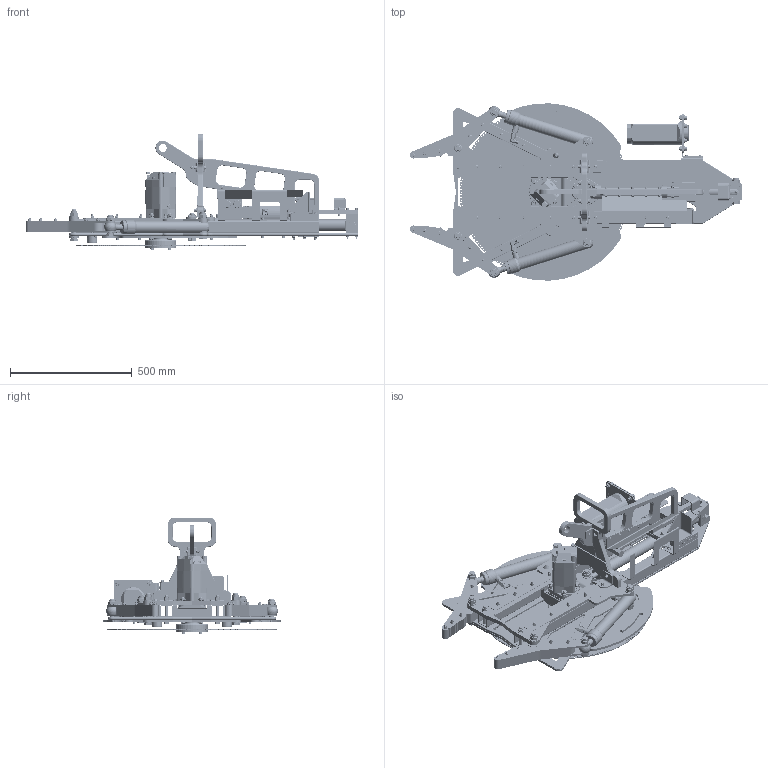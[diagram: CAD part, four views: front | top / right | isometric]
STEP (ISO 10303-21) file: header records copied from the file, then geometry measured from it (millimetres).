
FILE_DESCRIPTION(/* description */ (''),/* implementation_level */ '2;1');
FILE_NAME(/* name */ 'S:\02.Public\05.Marked\02 IKM Technology Products\08 3D Models\SHRINKWRAPS\1 CUTTING SAW AND MULTI TOOLS\IKM-1077988.stp',/* time_stamp */ '2020-08-25T09:23:26+02:00',/* author */ ('benjamino'),/* organization */ (''),/* preprocessor_version */ 'ST-DEVELOPER v17',/* originating_system */ 'Autodesk Inventor 2018',/* authorisation */ '');
FILE_SCHEMA (('AUTOMOTIVE_DESIGN { 1 0 10303 214 3 1 1 }'));
Products named in the file (1): IKM-1077988
Bounding box: 1365.39 x 729.27 x 481 mm (x, y, z)
Volume: 23500777.3 mm3; surface area: 4106619.5 mm2
Topology: 2 solids, 2 shells, 7076 faces, 18435 edges, 11773 vertices
Faces by surface type: plane 3706, cylinder 2132, cone 812, torus 336, sphere 69, bspline 21
Full cylindrical faces by diameter (mm): 3.44 x2, 5 x2, 6 x30, 6.9 x2, 7.323 x6, 8 x79, 8.9 x16, 10 x32, 11.4 x27, 11.6 x33, 12 x36, 12.09 x2, 12.1 x4, 12.24 x4, 12.9 x2, 13 x4, 13.5 x4, 14.287 x12, 14.5 x2, 16 x74, 16.9 x1, 17.4 x12, 18 x1, 18.6 x2, 20 x27, 21 x2, 21.9 x4, 22.862 x1, 23.631 x2, 24 x10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
Entity records: 224342 total; most frequent: CARTESIAN_POINT 47077, ORIENTED_EDGE 36840, DIRECTION 35666, EDGE_CURVE 18420, AXIS2_PLACEMENT_3D 13392, VERTEX_POINT 11773, LINE 8882, VECTOR 8882
